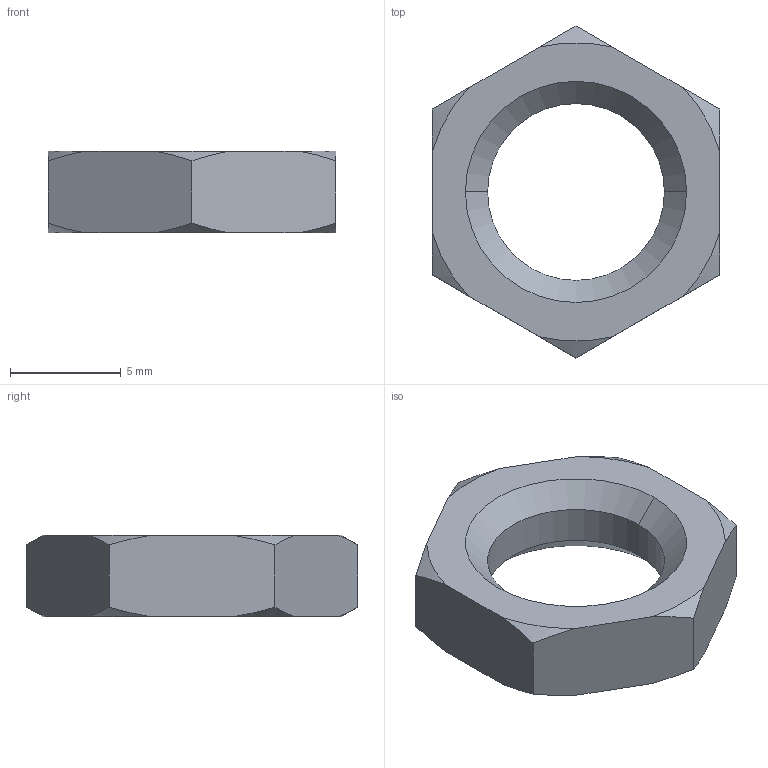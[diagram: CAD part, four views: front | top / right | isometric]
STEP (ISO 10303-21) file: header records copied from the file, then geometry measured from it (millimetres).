
FILE_DESCRIPTION (( 'STEP AP203' ), '1' );
FILE_NAME ('P0306.080-100-A4.step', '2018-12-15T15:00:05', ( '' ), ( '' ), 'SwSTEP 2.0', 'SolidWorks 2017', '' );
FILE_SCHEMA (( 'CONFIG_CONTROL_DESIGN' ));
Length unit declared in the file: millimetre
Products named in the file (1): P0306.080-100-A4
Bounding box: 13 x 15.01 x 3.7 mm (x, y, z)
Volume: 326.5 mm3; surface area: 418.1 mm2
Topology: 1 solids, 1 shells, 26 faces, 68 edges, 44 vertices
Faces by surface type: cone 16, plane 8, cylinder 2
Entity records: 913 total; most frequent: CARTESIAN_POINT 219, ORIENTED_EDGE 136, DIRECTION 118, EDGE_CURVE 68, AXIS2_PLACEMENT_3D 47, VERTEX_POINT 44, EDGE_LOOP 28, FACE_OUTER_BOUND 26
